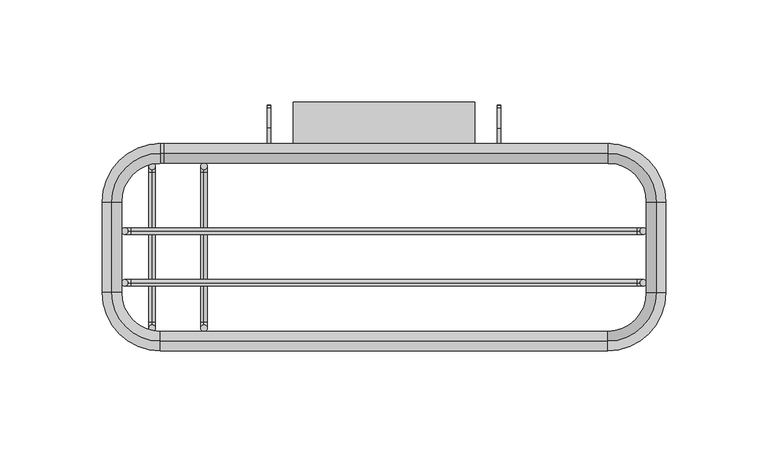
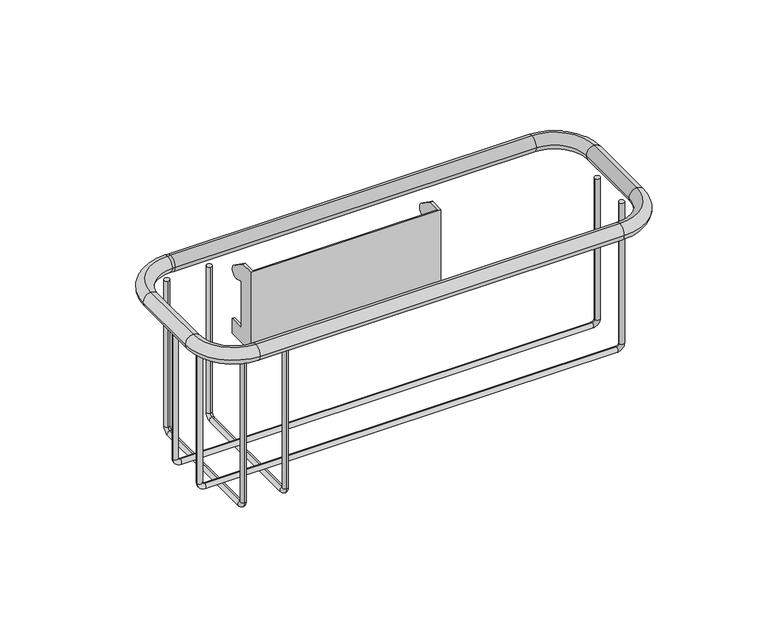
"""IFC4 building model written with IfcOpenShell, lengths in millimetres: furniture geometry."""

from ifc_helpers import new_model, si_unit, point, frame, origin, place, context, project, spatial, circle_curve, ellipse_curve, trimmed, source, transform, mapped, element, save
from ifc_brep_helpers import plane_surface, cylinder_surface, revolved_surface, advanced_brep


def furniture_ef13b4ed(model_context):
    return source(origin(), model_context, "Body", "AdvancedBrep", [
        advanced_brep(
        [(128.5875, -33.2648724, 821.0042), (125.4125, -33.2648724, 821.0042), (-128.5875, -33.2648724, 821.0042), (-125.4125, -33.2648724, 821.0042), (128.5875, -33.2648724, 731.3109034), (125.4125, -33.2648724, 731.3109034), (123.825, -33.2648724, 729.7234034), (123.825, -33.2648724, 726.5484034), (-123.825, -33.2648724, 726.5484034), (-123.825, -33.2648724, 729.7234034), (-125.4125, -33.2648724, 731.3109034), (-128.5875, -33.2648724, 731.3109034)],
        [
            (0, 1, circle_curve(frame((127.0, -33.2648724, 821.0042), z_axis=(0.0, 0.0, 1.0), x_axis=(0.0, 1.0, 0.0)), 1.5875)),
            (1, 0, circle_curve(frame((127.0, -33.2648724, 821.0042), z_axis=(0.0, 0.0, 1.0), x_axis=(0.0, 1.0, 0.0)), 1.5875)),
            (2, 3, circle_curve(frame((-127.0, -33.2648724, 821.0042), z_axis=(0.0, 0.0, 1.0), x_axis=(0.0, 1.0, 0.0)), 1.5875)),
            (3, 2, circle_curve(frame((-127.0, -33.2648724, 821.0042), z_axis=(0.0, 0.0, 1.0), x_axis=(0.0, 1.0, 0.0)), 1.5875)),
            (0, 4),
            (4, 5, circle_curve(frame((127.0, -33.2648724, 731.3109034), z_axis=(0.0, 0.0, 1.0), x_axis=(0.0, 1.0, 0.0)), 1.5875)),
            (5, 1),
            (5, 4, circle_curve(frame((127.0, -33.2648724, 731.3109034), z_axis=(0.0, 0.0, 1.0), x_axis=(0.0, 1.0, 0.0)), 1.5875)),
            (6, 7, circle_curve(frame((123.825, -33.2648724, 728.1359034), z_axis=(-1.0, 0.0, 0.0), x_axis=(0.0, 1.0, 0.0)), 1.5875)),
            (7, 8),
            (8, 9, circle_curve(frame((-123.825, -33.2648724, 728.1359034), z_axis=(1.0, 0.0, 0.0), x_axis=(0.0, 1.0, 0.0)), 1.5875)),
            (9, 6),
            (7, 6, circle_curve(frame((123.825, -33.2648724, 728.1359034), z_axis=(-1.0, 0.0, 0.0), x_axis=(0.0, 1.0, 0.0)), 1.5875)),
            (9, 8, circle_curve(frame((-123.825, -33.2648724, 728.1359034), z_axis=(1.0, 0.0, 0.0), x_axis=(0.0, 1.0, 0.0)), 1.5875)),
            (10, 11, circle_curve(frame((-127.0, -33.2648724, 731.3109034), z_axis=(0.0, 0.0, 1.0), x_axis=(0.0, 1.0, 0.0)), 1.5875)),
            (11, 2),
            (3, 10),
            (11, 10, circle_curve(frame((-127.0, -33.2648724, 731.3109034), z_axis=(0.0, 0.0, 1.0), x_axis=(0.0, 1.0, 0.0)), 1.5875)),
            (6, 5, circle_curve(frame((123.825, -33.2648724, 731.3109034), z_axis=(0.0, -1.0, 0.0), x_axis=(1.0, 0.0, 0.0)), 1.5875)),
            (4, 7, circle_curve(frame((123.825, -33.2648724, 731.3109034), z_axis=(0.0, 1.0, 0.0), x_axis=(1.0, 0.0, 0.0)), 4.7625)),
            (10, 9, circle_curve(frame((-123.825, -33.2648724, 731.3109034), z_axis=(0.0, -1.0, 0.0), x_axis=(0.0, 0.0, -1.0)), 1.5875)),
            (8, 11, circle_curve(frame((-123.825, -33.2648724, 731.3109034), z_axis=(0.0, 1.0, 0.0), x_axis=(0.0, 0.0, -1.0)), 4.7625)),
        ],
        [
            plane_surface(frame((128.5875, -33.2648724, 821.0042), z_axis=(0.0, 0.0, 1.0), x_axis=(0.0, 1.0, 0.0))),
            plane_surface(frame((-128.5875, -33.2648724, 821.0042), z_axis=(0.0, 0.0, 1.0), x_axis=(0.0, 1.0, 0.0))),
            cylinder_surface(frame((127.0, -33.2648724, 821.0042), z_axis=(0.0, 0.0, 1.0), x_axis=(0.0, 1.0, 0.0)), 1.5875),
            cylinder_surface(frame((123.825, -33.2648724, 728.1359034), z_axis=(1.0, 0.0, 0.0), x_axis=(0.0, 1.0, 0.0)), 1.5875),
            cylinder_surface(frame((-127.0, -33.2648724, 731.3109034), z_axis=(0.0, 0.0, -1.0), x_axis=(0.0, 1.0, 0.0)), 1.5875),
            revolved_surface(trimmed(ellipse_curve(frame((127.0, -33.2648724, 731.3109034), z_axis=(0.0, 0.0, 1.0), x_axis=(0.0, 1.0, 0.0)), 1.5875, 1.5875), [point((128.5875, -33.2648724, 731.3109034))], [point((125.4125, -33.2648724, 731.3109034))], True, "CARTESIAN"), (123.825, -33.2648724, 731.3109034), (0.0, 1.0, 0.0)),
            revolved_surface(trimmed(ellipse_curve(frame((127.0, -33.2648724, 731.3109034), z_axis=(0.0, 0.0, 1.0), x_axis=(0.0, 1.0, 0.0)), 1.5875, 1.5875), [point((125.4125, -33.2648724, 731.3109034))], [point((128.5875, -33.2648724, 731.3109034))], True, "CARTESIAN"), (123.825, -33.2648724, 731.3109034), (0.0, 1.0, 0.0)),
            revolved_surface(trimmed(ellipse_curve(frame((-123.825, -33.2648724, 728.1359034), z_axis=(1.0, 0.0, 0.0), x_axis=(0.0, 1.0, 0.0)), 1.5875, 1.5875), [point((-123.825, -33.2648724, 726.5484034))], [point((-123.825, -33.2648724, 729.7234034))], True, "CARTESIAN"), (-123.825, -33.2648724, 731.3109034), (0.0, 1.0, 0.0)),
            revolved_surface(trimmed(ellipse_curve(frame((-123.825, -33.2648724, 728.1359034), z_axis=(1.0, 0.0, 0.0), x_axis=(0.0, 1.0, 0.0)), 1.5875, 1.5875), [point((-123.825, -33.2648724, 729.7234034))], [point((-123.825, -33.2648724, 726.5484034))], True, "CARTESIAN"), (-123.825, -33.2648724, 731.3109034), (0.0, 1.0, 0.0)),
        ],
        [
            (0, [[1, 2]]),
            (1, [[3, 4]]),
            (2, [[-1, 5, 6, 7]]),
            (2, [[-2, -7, 8, -5]]),
            (3, [[9, 10, 11, 12]]),
            (3, [[13, -12, 14, -10]]),
            (4, [[15, 16, -4, 17]]),
            (4, [[18, -17, -3, -16]]),
            (5, [[19, -6, 20, -9]]),
            (6, [[-20, -8, -19, -13]]),
            (7, [[21, -11, 22, -15]]),
            (8, [[-22, -14, -21, -18]]),
        ],
    ),
        advanced_brep(
        [(128.5875, -58.6648724, 821.0042), (125.4125, -58.6648724, 821.0042), (-128.5875, -58.6648724, 821.0042), (-125.4125, -58.6648724, 821.0042), (128.5875, -58.6648724, 731.3109034), (125.4125, -58.6648724, 731.3109034), (123.825, -58.6648724, 729.7234034), (123.825, -58.6648724, 726.5484034), (-123.825, -58.6648724, 726.5484034), (-123.825, -58.6648724, 729.7234034), (-125.4125, -58.6648724, 731.3109034), (-128.5875, -58.6648724, 731.3109034)],
        [
            (0, 1, circle_curve(frame((127.0, -58.6648724, 821.0042), z_axis=(0.0, 0.0, 1.0), x_axis=(0.0, 1.0, 0.0)), 1.5875)),
            (1, 0, circle_curve(frame((127.0, -58.6648724, 821.0042), z_axis=(0.0, 0.0, 1.0), x_axis=(0.0, 1.0, 0.0)), 1.5875)),
            (2, 3, circle_curve(frame((-127.0, -58.6648724, 821.0042), z_axis=(0.0, 0.0, 1.0), x_axis=(0.0, 1.0, 0.0)), 1.5875)),
            (3, 2, circle_curve(frame((-127.0, -58.6648724, 821.0042), z_axis=(0.0, 0.0, 1.0), x_axis=(0.0, 1.0, 0.0)), 1.5875)),
            (0, 4),
            (4, 5, circle_curve(frame((127.0, -58.6648724, 731.3109034), z_axis=(0.0, 0.0, 1.0), x_axis=(0.0, 1.0, 0.0)), 1.5875)),
            (5, 1),
            (5, 4, circle_curve(frame((127.0, -58.6648724, 731.3109034), z_axis=(0.0, 0.0, 1.0), x_axis=(0.0, 1.0, 0.0)), 1.5875)),
            (6, 7, circle_curve(frame((123.825, -58.6648724, 728.1359034), z_axis=(-1.0, 0.0, 0.0), x_axis=(0.0, 1.0, 0.0)), 1.5875)),
            (7, 8),
            (8, 9, circle_curve(frame((-123.825, -58.6648724, 728.1359034), z_axis=(1.0, 0.0, 0.0), x_axis=(0.0, 1.0, 0.0)), 1.5875)),
            (9, 6),
            (7, 6, circle_curve(frame((123.825, -58.6648724, 728.1359034), z_axis=(-1.0, 0.0, 0.0), x_axis=(0.0, 1.0, 0.0)), 1.5875)),
            (9, 8, circle_curve(frame((-123.825, -58.6648724, 728.1359034), z_axis=(1.0, 0.0, 0.0), x_axis=(0.0, 1.0, 0.0)), 1.5875)),
            (10, 11, circle_curve(frame((-127.0, -58.6648724, 731.3109034), z_axis=(0.0, 0.0, 1.0), x_axis=(0.0, 1.0, 0.0)), 1.5875)),
            (11, 2),
            (3, 10),
            (11, 10, circle_curve(frame((-127.0, -58.6648724, 731.3109034), z_axis=(0.0, 0.0, 1.0), x_axis=(0.0, 1.0, 0.0)), 1.5875)),
            (6, 5, circle_curve(frame((123.825, -58.6648724, 731.3109034), z_axis=(0.0, -1.0, 0.0), x_axis=(1.0, 0.0, 0.0)), 1.5875)),
            (4, 7, circle_curve(frame((123.825, -58.6648724, 731.3109034), z_axis=(0.0, 1.0, 0.0), x_axis=(1.0, 0.0, 0.0)), 4.7625)),
            (10, 9, circle_curve(frame((-123.825, -58.6648724, 731.3109034), z_axis=(0.0, -1.0, 0.0), x_axis=(0.0, 0.0, -1.0)), 1.5875)),
            (8, 11, circle_curve(frame((-123.825, -58.6648724, 731.3109034), z_axis=(0.0, 1.0, 0.0), x_axis=(0.0, 0.0, -1.0)), 4.7625)),
        ],
        [
            plane_surface(frame((128.5875, -58.6648724, 821.0042), z_axis=(0.0, 0.0, 1.0), x_axis=(0.0, 1.0, 0.0))),
            plane_surface(frame((-128.5875, -58.6648724, 821.0042), z_axis=(0.0, 0.0, 1.0), x_axis=(0.0, 1.0, 0.0))),
            cylinder_surface(frame((127.0, -58.6648724, 821.0042), z_axis=(0.0, 0.0, 1.0), x_axis=(0.0, 1.0, 0.0)), 1.5875),
            cylinder_surface(frame((123.825, -58.6648724, 728.1359034), z_axis=(1.0, 0.0, 0.0), x_axis=(0.0, 1.0, 0.0)), 1.5875),
            cylinder_surface(frame((-127.0, -58.6648724, 731.3109034), z_axis=(0.0, 0.0, -1.0), x_axis=(0.0, 1.0, 0.0)), 1.5875),
            revolved_surface(trimmed(ellipse_curve(frame((127.0, -58.6648724, 731.3109034), z_axis=(0.0, 0.0, 1.0), x_axis=(0.0, 1.0, 0.0)), 1.5875, 1.5875), [point((128.5875, -58.6648724, 731.3109034))], [point((125.4125, -58.6648724, 731.3109034))], True, "CARTESIAN"), (123.825, -58.6648724, 731.3109034), (0.0, 1.0, 0.0)),
            revolved_surface(trimmed(ellipse_curve(frame((127.0, -58.6648724, 731.3109034), z_axis=(0.0, 0.0, 1.0), x_axis=(0.0, 1.0, 0.0)), 1.5875, 1.5875), [point((125.4125, -58.6648724, 731.3109034))], [point((128.5875, -58.6648724, 731.3109034))], True, "CARTESIAN"), (123.825, -58.6648724, 731.3109034), (0.0, 1.0, 0.0)),
            revolved_surface(trimmed(ellipse_curve(frame((-123.825, -58.6648724, 728.1359034), z_axis=(1.0, 0.0, 0.0), x_axis=(0.0, 1.0, 0.0)), 1.5875, 1.5875), [point((-123.825, -58.6648724, 726.5484034))], [point((-123.825, -58.6648724, 729.7234034))], True, "CARTESIAN"), (-123.825, -58.6648724, 731.3109034), (0.0, 1.0, 0.0)),
            revolved_surface(trimmed(ellipse_curve(frame((-123.825, -58.6648724, 728.1359034), z_axis=(1.0, 0.0, 0.0), x_axis=(0.0, 1.0, 0.0)), 1.5875, 1.5875), [point((-123.825, -58.6648724, 729.7234034))], [point((-123.825, -58.6648724, 726.5484034))], True, "CARTESIAN"), (-123.825, -58.6648724, 731.3109034), (0.0, 1.0, 0.0)),
        ],
        [
            (0, [[1, 2]]),
            (1, [[3, 4]]),
            (2, [[-1, 5, 6, 7]]),
            (2, [[-2, -7, 8, -5]]),
            (3, [[9, 10, 11, 12]]),
            (3, [[13, -12, 14, -10]]),
            (4, [[15, 16, -4, 17]]),
            (4, [[18, -17, -3, -16]]),
            (5, [[19, -6, 20, -9]]),
            (6, [[-20, -8, -19, -13]]),
            (7, [[21, -11, 22, -15]]),
            (8, [[-22, -14, -21, -18]]),
        ],
    ),
        advanced_brep(
        [(-88.19642, -82.4773724, 821.0042), (-88.19642, -79.3023724, 821.0042), (-88.19642, 0.0726276, 821.0042), (-88.19642, -3.1023724, 821.0042), (-88.19642, -82.4773724, 728.1359034), (-88.19642, -79.3023724, 728.1359034), (-88.19642, -77.7148724, 726.5484034), (-88.19642, -77.7148724, 723.3734034), (-88.19642, -4.6898724, 723.3734034), (-88.19642, -4.6898724, 726.5484034), (-88.19642, -3.1023724, 728.1359034), (-88.19642, 0.0726276, 728.1359034)],
        [
            (0, 1, circle_curve(frame((-88.19642, -80.8898724, 821.0042), z_axis=(0.0, 0.0, 1.0), x_axis=(1.0, 0.0, 0.0)), 1.5875)),
            (1, 0, circle_curve(frame((-88.19642, -80.8898724, 821.0042), z_axis=(0.0, 0.0, 1.0), x_axis=(1.0, 0.0, 0.0)), 1.5875)),
            (2, 3, circle_curve(frame((-88.19642, -1.5148724, 821.0042), z_axis=(0.0, 0.0, 1.0), x_axis=(1.0, 0.0, 0.0)), 1.5875)),
            (3, 2, circle_curve(frame((-88.19642, -1.5148724, 821.0042), z_axis=(0.0, 0.0, 1.0), x_axis=(1.0, 0.0, 0.0)), 1.5875)),
            (0, 4),
            (4, 5, circle_curve(frame((-88.19642, -80.8898724, 728.1359034), z_axis=(0.0, 0.0, 1.0), x_axis=(1.0, 0.0, 0.0)), 1.5875)),
            (5, 1),
            (5, 4, circle_curve(frame((-88.19642, -80.8898724, 728.1359034), z_axis=(0.0, 0.0, 1.0), x_axis=(1.0, 0.0, 0.0)), 1.5875)),
            (6, 7, circle_curve(frame((-88.19642, -77.7148724, 724.9609034), z_axis=(0.0, 1.0, 0.0), x_axis=(1.0, 0.0, 0.0)), 1.5875)),
            (7, 8),
            (8, 9, circle_curve(frame((-88.19642, -4.6898724, 724.9609034), z_axis=(0.0, -1.0, 0.0), x_axis=(1.0, 0.0, 0.0)), 1.5875)),
            (9, 6),
            (7, 6, circle_curve(frame((-88.19642, -77.7148724, 724.9609034), z_axis=(0.0, 1.0, 0.0), x_axis=(1.0, 0.0, 0.0)), 1.5875)),
            (9, 8, circle_curve(frame((-88.19642, -4.6898724, 724.9609034), z_axis=(0.0, -1.0, 0.0), x_axis=(1.0, 0.0, 0.0)), 1.5875)),
            (10, 11, circle_curve(frame((-88.19642, -1.5148724, 728.1359034), z_axis=(0.0, 0.0, 1.0), x_axis=(1.0, 0.0, 0.0)), 1.5875)),
            (11, 2),
            (3, 10),
            (11, 10, circle_curve(frame((-88.19642, -1.5148724, 728.1359034), z_axis=(0.0, 0.0, 1.0), x_axis=(1.0, 0.0, 0.0)), 1.5875)),
            (6, 5, circle_curve(frame((-88.19642, -77.7148724, 728.1359034), z_axis=(-1.0, 0.0, 0.0), x_axis=(0.0, -1.0, 0.0)), 1.5875)),
            (4, 7, circle_curve(frame((-88.19642, -77.7148724, 728.1359034), z_axis=(1.0, 0.0, 0.0), x_axis=(0.0, -1.0, 0.0)), 4.7625)),
            (10, 9, circle_curve(frame((-88.19642, -4.6898724, 728.1359034), z_axis=(-1.0, 0.0, 0.0), x_axis=(0.0, 0.0, -1.0)), 1.5875)),
            (8, 11, circle_curve(frame((-88.19642, -4.6898724, 728.1359034), z_axis=(1.0, 0.0, 0.0), x_axis=(0.0, 0.0, -1.0)), 4.7625)),
        ],
        [
            plane_surface(frame((-88.19642, -82.4773724, 821.0042), z_axis=(0.0, 0.0, 1.0), x_axis=(1.0, 0.0, 0.0))),
            plane_surface(frame((-88.19642, 0.0726276, 821.0042), z_axis=(0.0, 0.0, 1.0), x_axis=(1.0, 0.0, 0.0))),
            cylinder_surface(frame((-88.19642, -80.8898724, 821.0042), z_axis=(0.0, 0.0, 1.0), x_axis=(1.0, 0.0, 0.0)), 1.5875),
            cylinder_surface(frame((-88.19642, -77.7148724, 724.9609034), z_axis=(0.0, -1.0, 0.0), x_axis=(1.0, 0.0, 0.0)), 1.5875),
            cylinder_surface(frame((-88.19642, -1.5148724, 728.1359034), z_axis=(0.0, 0.0, -1.0), x_axis=(1.0, 0.0, 0.0)), 1.5875),
            revolved_surface(trimmed(ellipse_curve(frame((-88.19642, -80.8898724, 728.1359034), z_axis=(0.0, 0.0, 1.0), x_axis=(1.0, 0.0, 0.0)), 1.5875, 1.5875), [point((-88.19642, -82.4773724, 728.1359034))], [point((-88.19642, -79.3023724, 728.1359034))], True, "CARTESIAN"), (-88.19642, -77.7148724, 728.1359034), (1.0, 0.0, 0.0)),
            revolved_surface(trimmed(ellipse_curve(frame((-88.19642, -80.8898724, 728.1359034), z_axis=(0.0, 0.0, 1.0), x_axis=(1.0, 0.0, 0.0)), 1.5875, 1.5875), [point((-88.19642, -79.3023724, 728.1359034))], [point((-88.19642, -82.4773724, 728.1359034))], True, "CARTESIAN"), (-88.19642, -77.7148724, 728.1359034), (1.0, 0.0, 0.0)),
            revolved_surface(trimmed(ellipse_curve(frame((-88.19642, -4.6898724, 724.9609034), z_axis=(0.0, -1.0, 0.0), x_axis=(1.0, 0.0, 0.0)), 1.5875, 1.5875), [point((-88.19642, -4.6898724, 723.3734034))], [point((-88.19642, -4.6898724, 726.5484034))], True, "CARTESIAN"), (-88.19642, -4.6898724, 728.1359034), (1.0, 0.0, 0.0)),
            revolved_surface(trimmed(ellipse_curve(frame((-88.19642, -4.6898724, 724.9609034), z_axis=(0.0, -1.0, 0.0), x_axis=(1.0, 0.0, 0.0)), 1.5875, 1.5875), [point((-88.19642, -4.6898724, 726.5484034))], [point((-88.19642, -4.6898724, 723.3734034))], True, "CARTESIAN"), (-88.19642, -4.6898724, 728.1359034), (1.0, 0.0, 0.0)),
        ],
        [
            (0, [[1, 2]]),
            (1, [[3, 4]]),
            (2, [[-1, 5, 6, 7]]),
            (2, [[-2, -7, 8, -5]]),
            (3, [[9, 10, 11, 12]]),
            (3, [[13, -12, 14, -10]]),
            (4, [[15, 16, -4, 17]]),
            (4, [[18, -17, -3, -16]]),
            (5, [[19, -6, 20, -9]]),
            (6, [[-20, -8, -19, -13]]),
            (7, [[21, -11, 22, -15]]),
            (8, [[-22, -14, -21, -18]]),
        ],
    ),
        advanced_brep(
        [(-113.59642, -82.4773724, 821.0042), (-113.59642, -79.3023724, 821.0042), (-113.59642, 0.0726276, 821.0042), (-113.59642, -3.1023724, 821.0042), (-113.59642, -82.4773724, 728.1359034), (-113.59642, -79.3023724, 728.1359034), (-113.59642, -77.7148724, 726.5484034), (-113.59642, -77.7148724, 723.3734034), (-113.59642, -4.6898724, 723.3734034), (-113.59642, -4.6898724, 726.5484034), (-113.59642, -3.1023724, 728.1359034), (-113.59642, 0.0726276, 728.1359034)],
        [
            (0, 1, circle_curve(frame((-113.59642, -80.8898724, 821.0042), z_axis=(0.0, 0.0, 1.0), x_axis=(1.0, 0.0, 0.0)), 1.5875)),
            (1, 0, circle_curve(frame((-113.59642, -80.8898724, 821.0042), z_axis=(0.0, 0.0, 1.0), x_axis=(1.0, 0.0, 0.0)), 1.5875)),
            (2, 3, circle_curve(frame((-113.59642, -1.5148724, 821.0042), z_axis=(0.0, 0.0, 1.0), x_axis=(1.0, 0.0, 0.0)), 1.5875)),
            (3, 2, circle_curve(frame((-113.59642, -1.5148724, 821.0042), z_axis=(0.0, 0.0, 1.0), x_axis=(1.0, 0.0, 0.0)), 1.5875)),
            (0, 4),
            (4, 5, circle_curve(frame((-113.59642, -80.8898724, 728.1359034), z_axis=(0.0, 0.0, 1.0), x_axis=(1.0, 0.0, 0.0)), 1.5875)),
            (5, 1),
            (5, 4, circle_curve(frame((-113.59642, -80.8898724, 728.1359034), z_axis=(0.0, 0.0, 1.0), x_axis=(1.0, 0.0, 0.0)), 1.5875)),
            (6, 7, circle_curve(frame((-113.59642, -77.7148724, 724.9609034), z_axis=(0.0, 1.0, 0.0), x_axis=(1.0, 0.0, 0.0)), 1.5875)),
            (7, 8),
            (8, 9, circle_curve(frame((-113.59642, -4.6898724, 724.9609034), z_axis=(0.0, -1.0, 0.0), x_axis=(1.0, 0.0, 0.0)), 1.5875)),
            (9, 6),
            (7, 6, circle_curve(frame((-113.59642, -77.7148724, 724.9609034), z_axis=(0.0, 1.0, 0.0), x_axis=(1.0, 0.0, 0.0)), 1.5875)),
            (9, 8, circle_curve(frame((-113.59642, -4.6898724, 724.9609034), z_axis=(0.0, -1.0, 0.0), x_axis=(1.0, 0.0, 0.0)), 1.5875)),
            (10, 11, circle_curve(frame((-113.59642, -1.5148724, 728.1359034), z_axis=(0.0, 0.0, 1.0), x_axis=(1.0, 0.0, 0.0)), 1.5875)),
            (11, 2),
            (3, 10),
            (11, 10, circle_curve(frame((-113.59642, -1.5148724, 728.1359034), z_axis=(0.0, 0.0, 1.0), x_axis=(1.0, 0.0, 0.0)), 1.5875)),
            (6, 5, circle_curve(frame((-113.59642, -77.7148724, 728.1359034), z_axis=(-1.0, 0.0, 0.0), x_axis=(0.0, -1.0, 0.0)), 1.5875)),
            (4, 7, circle_curve(frame((-113.59642, -77.7148724, 728.1359034), z_axis=(1.0, 0.0, 0.0), x_axis=(0.0, -1.0, 0.0)), 4.7625)),
            (10, 9, circle_curve(frame((-113.59642, -4.6898724, 728.1359034), z_axis=(-1.0, 0.0, 0.0), x_axis=(0.0, 0.0, -1.0)), 1.5875)),
            (8, 11, circle_curve(frame((-113.59642, -4.6898724, 728.1359034), z_axis=(1.0, 0.0, 0.0), x_axis=(0.0, 0.0, -1.0)), 4.7625)),
        ],
        [
            plane_surface(frame((-113.59642, -82.4773724, 821.0042), z_axis=(0.0, 0.0, 1.0), x_axis=(1.0, 0.0, 0.0))),
            plane_surface(frame((-113.59642, 0.0726276, 821.0042), z_axis=(0.0, 0.0, 1.0), x_axis=(1.0, 0.0, 0.0))),
            cylinder_surface(frame((-113.59642, -80.8898724, 821.0042), z_axis=(0.0, 0.0, 1.0), x_axis=(1.0, 0.0, 0.0)), 1.5875),
            cylinder_surface(frame((-113.59642, -77.7148724, 724.9609034), z_axis=(0.0, -1.0, 0.0), x_axis=(1.0, 0.0, 0.0)), 1.5875),
            cylinder_surface(frame((-113.59642, -1.5148724, 728.1359034), z_axis=(0.0, 0.0, -1.0), x_axis=(1.0, 0.0, 0.0)), 1.5875),
            revolved_surface(trimmed(ellipse_curve(frame((-113.59642, -80.8898724, 728.1359034), z_axis=(0.0, 0.0, 1.0), x_axis=(1.0, 0.0, 0.0)), 1.5875, 1.5875), [point((-113.59642, -82.4773724, 728.1359034))], [point((-113.59642, -79.3023724, 728.1359034))], True, "CARTESIAN"), (-113.59642, -77.7148724, 728.1359034), (1.0, 0.0, 0.0)),
            revolved_surface(trimmed(ellipse_curve(frame((-113.59642, -80.8898724, 728.1359034), z_axis=(0.0, 0.0, 1.0), x_axis=(1.0, 0.0, 0.0)), 1.5875, 1.5875), [point((-113.59642, -79.3023724, 728.1359034))], [point((-113.59642, -82.4773724, 728.1359034))], True, "CARTESIAN"), (-113.59642, -77.7148724, 728.1359034), (1.0, 0.0, 0.0)),
            revolved_surface(trimmed(ellipse_curve(frame((-113.59642, -4.6898724, 724.9609034), z_axis=(0.0, -1.0, 0.0), x_axis=(1.0, 0.0, 0.0)), 1.5875, 1.5875), [point((-113.59642, -4.6898724, 723.3734034))], [point((-113.59642, -4.6898724, 726.5484034))], True, "CARTESIAN"), (-113.59642, -4.6898724, 728.1359034), (1.0, 0.0, 0.0)),
            revolved_surface(trimmed(ellipse_curve(frame((-113.59642, -4.6898724, 724.9609034), z_axis=(0.0, -1.0, 0.0), x_axis=(1.0, 0.0, 0.0)), 1.5875, 1.5875), [point((-113.59642, -4.6898724, 726.5484034))], [point((-113.59642, -4.6898724, 723.3734034))], True, "CARTESIAN"), (-113.59642, -4.6898724, 728.1359034), (1.0, 0.0, 0.0)),
        ],
        [
            (0, [[1, 2]]),
            (1, [[3, 4]]),
            (2, [[-1, 5, 6, 7]]),
            (2, [[-2, -7, 8, -5]]),
            (3, [[9, 10, 11, 12]]),
            (3, [[13, -12, 14, -10]]),
            (4, [[15, 16, -4, 17]]),
            (4, [[18, -17, -3, -16]]),
            (5, [[19, -6, 20, -9]]),
            (6, [[-20, -8, -19, -13]]),
            (7, [[21, -11, 22, -15]]),
            (8, [[-22, -14, -21, -18]]),
        ],
    ),
        advanced_brep(
        [(-109.5375, 4.8351276, 830.5292), (-133.35, -18.9773724, 830.5292), (-128.5875, -18.9773724, 825.7667), (-109.5375, 0.0726276, 825.7667), (-109.5375, 9.5976276, 825.7667), (-138.1125, -18.9773724, 825.7667), (-109.5375, 4.8351276, 821.0042), (-133.35, -18.9773724, 821.0042), (-107.8069343, 0.0726276, 825.7667), (-107.8069343, 4.8351276, 830.5292), (-107.8069343, 9.5976276, 825.7667), (-107.8069343, 4.8351276, 821.0042), (109.5375, 0.0726276, 825.7667), (109.5375, 4.8351276, 830.5292), (109.5375, 9.5976276, 825.7667), (109.5375, 4.8351276, 821.0042), (133.35, -18.9773724, 830.5292), (128.5875, -18.9773724, 825.7667), (138.1125, -18.9773724, 825.7667), (133.35, -18.9773724, 821.0042), (128.5875, -63.4273724, 825.7667), (133.35, -63.4273724, 830.5292), (138.1125, -63.4273724, 825.7667), (133.35, -63.4273724, 821.0042), (109.5375, -87.2398724, 830.5292), (109.5375, -82.4773724, 825.7667), (109.5375, -92.0023724, 825.7667), (109.5375, -87.2398724, 821.0042), (-109.5375, -82.4773724, 825.7667), (-109.5375, -87.2398724, 830.5292), (-109.5375, -92.0023724, 825.7667), (-109.5375, -87.2398724, 821.0042), (-133.35, -63.4273724, 830.5292), (-128.5875, -63.4273724, 825.7667), (-138.1125, -63.4273724, 825.7667), (-133.35, -63.4273724, 821.0042)],
        [
            (0, 1, circle_curve(frame((-109.5375, -18.9773724, 830.5292), z_axis=(0.0, 0.0, 1.0), x_axis=(-1.0, 0.0, 0.0)), 23.8125)),
            (1, 2, circle_curve(frame((-133.35, -18.9773724, 825.7667), z_axis=(0.0, 1.0, 0.0), x_axis=(-1.0, 0.0, 0.0)), 4.7625)),
            (2, 3, circle_curve(frame((-109.5375, -18.9773724, 825.7667), z_axis=(0.0, 0.0, -1.0), x_axis=(-1.0, 0.0, 0.0)), 19.05)),
            (3, 0, circle_curve(frame((-109.5375, 4.8351276, 825.7667), z_axis=(-1.0, 0.0, 0.0), x_axis=(0.0, 1.0, 0.0)), 4.7625)),
            (4, 5, circle_curve(frame((-109.5375, -18.9773724, 825.7667), z_axis=(0.0, 0.0, 1.0), x_axis=(-1.0, 0.0, 0.0)), 28.575)),
            (5, 1, circle_curve(frame((-133.35, -18.9773724, 825.7667), z_axis=(0.0, 1.0, 0.0), x_axis=(-1.0, 0.0, 0.0)), 4.7625)),
            (0, 4, circle_curve(frame((-109.5375, 4.8351276, 825.7667), z_axis=(-1.0, 0.0, 0.0), x_axis=(0.0, 1.0, 0.0)), 4.7625)),
            (6, 7, circle_curve(frame((-109.5375, -18.9773724, 821.0042), z_axis=(0.0, 0.0, 1.0), x_axis=(-1.0, 0.0, 0.0)), 23.8125)),
            (7, 5, circle_curve(frame((-133.35, -18.9773724, 825.7667), z_axis=(0.0, 1.0, 0.0), x_axis=(-1.0, 0.0, 0.0)), 4.7625)),
            (4, 6, circle_curve(frame((-109.5375, 4.8351276, 825.7667), z_axis=(-1.0, 0.0, 0.0), x_axis=(0.0, 1.0, 0.0)), 4.7625)),
            (2, 7, circle_curve(frame((-133.35, -18.9773724, 825.7667), z_axis=(0.0, 1.0, 0.0), x_axis=(-1.0, 0.0, 0.0)), 4.7625)),
            (6, 3, circle_curve(frame((-109.5375, 4.8351276, 825.7667), z_axis=(-1.0, 0.0, 0.0), x_axis=(0.0, 1.0, 0.0)), 4.7625)),
            (3, 8),
            (8, 9, circle_curve(frame((-107.8069343, 4.8351276, 825.7667), z_axis=(-1.0, 0.0, 0.0), x_axis=(0.0, 1.0, 0.0)), 4.7625)),
            (9, 0),
            (9, 10, circle_curve(frame((-107.8069343, 4.8351276, 825.7667), z_axis=(-1.0, 0.0, 0.0), x_axis=(0.0, 1.0, 0.0)), 4.7625)),
            (10, 4),
            (10, 11, circle_curve(frame((-107.8069343, 4.8351276, 825.7667), z_axis=(-1.0, 0.0, 0.0), x_axis=(0.0, 1.0, 0.0)), 4.7625)),
            (11, 6),
            (11, 8, circle_curve(frame((-107.8069343, 4.8351276, 825.7667), z_axis=(-1.0, 0.0, 0.0), x_axis=(0.0, 1.0, 0.0)), 4.7625)),
            (8, 12),
            (12, 13, circle_curve(frame((109.5375, 4.8351276, 825.7667), z_axis=(-1.0, 0.0, 0.0), x_axis=(0.0, 1.0, 0.0)), 4.7625)),
            (13, 9),
            (13, 14, circle_curve(frame((109.5375, 4.8351276, 825.7667), z_axis=(-1.0, 0.0, 0.0), x_axis=(0.0, 1.0, 0.0)), 4.7625)),
            (14, 10),
            (14, 15, circle_curve(frame((109.5375, 4.8351276, 825.7667), z_axis=(-1.0, 0.0, 0.0), x_axis=(0.0, 1.0, 0.0)), 4.7625)),
            (15, 11),
            (15, 12, circle_curve(frame((109.5375, 4.8351276, 825.7667), z_axis=(-1.0, 0.0, 0.0), x_axis=(0.0, 1.0, 0.0)), 4.7625)),
            (16, 13, circle_curve(frame((109.5375, -18.9773724, 830.5292), z_axis=(0.0, 0.0, 1.0), x_axis=(0.0, 1.0, 0.0)), 23.8125)),
            (12, 17, circle_curve(frame((109.5375, -18.9773724, 825.7667), z_axis=(0.0, 0.0, -1.0), x_axis=(0.0, 1.0, 0.0)), 19.05)),
            (17, 16, circle_curve(frame((133.35, -18.9773724, 825.7667), z_axis=(0.0, 1.0, 0.0), x_axis=(1.0, 0.0, 0.0)), 4.7625)),
            (18, 14, circle_curve(frame((109.5375, -18.9773724, 825.7667), z_axis=(0.0, 0.0, 1.0), x_axis=(0.0, 1.0, 0.0)), 28.575)),
            (16, 18, circle_curve(frame((133.35, -18.9773724, 825.7667), z_axis=(0.0, 1.0, 0.0), x_axis=(1.0, 0.0, 0.0)), 4.7625)),
            (19, 15, circle_curve(frame((109.5375, -18.9773724, 821.0042), z_axis=(0.0, 0.0, 1.0), x_axis=(0.0, 1.0, 0.0)), 23.8125)),
            (18, 19, circle_curve(frame((133.35, -18.9773724, 825.7667), z_axis=(0.0, 1.0, 0.0), x_axis=(1.0, 0.0, 0.0)), 4.7625)),
            (19, 17, circle_curve(frame((133.35, -18.9773724, 825.7667), z_axis=(0.0, 1.0, 0.0), x_axis=(1.0, 0.0, 0.0)), 4.7625)),
            (17, 20),
            (20, 21, circle_curve(frame((133.35, -63.4273724, 825.7667), z_axis=(0.0, 1.0, 0.0), x_axis=(1.0, 0.0, 0.0)), 4.7625)),
            (21, 16),
            (21, 22, circle_curve(frame((133.35, -63.4273724, 825.7667), z_axis=(0.0, 1.0, 0.0), x_axis=(1.0, 0.0, 0.0)), 4.7625)),
            (22, 18),
            (22, 23, circle_curve(frame((133.35, -63.4273724, 825.7667), z_axis=(0.0, 1.0, 0.0), x_axis=(1.0, 0.0, 0.0)), 4.7625)),
            (23, 19),
            (23, 20, circle_curve(frame((133.35, -63.4273724, 825.7667), z_axis=(0.0, 1.0, 0.0), x_axis=(1.0, 0.0, 0.0)), 4.7625)),
            (24, 21, circle_curve(frame((109.5375, -63.4273724, 830.5292), z_axis=(0.0, 0.0, 1.0), x_axis=(1.0, 0.0, 0.0)), 23.8125)),
            (20, 25, circle_curve(frame((109.5375, -63.4273724, 825.7667), z_axis=(0.0, 0.0, -1.0), x_axis=(1.0, 0.0, 0.0)), 19.05)),
            (25, 24, circle_curve(frame((109.5375, -87.2398724, 825.7667), z_axis=(1.0, 0.0, 0.0), x_axis=(0.0, -1.0, 0.0)), 4.7625)),
            (26, 22, circle_curve(frame((109.5375, -63.4273724, 825.7667), z_axis=(0.0, 0.0, 1.0), x_axis=(1.0, 0.0, 0.0)), 28.575)),
            (24, 26, circle_curve(frame((109.5375, -87.2398724, 825.7667), z_axis=(1.0, 0.0, 0.0), x_axis=(0.0, -1.0, 0.0)), 4.7625)),
            (27, 23, circle_curve(frame((109.5375, -63.4273724, 821.0042), z_axis=(0.0, 0.0, 1.0), x_axis=(1.0, 0.0, 0.0)), 23.8125)),
            (26, 27, circle_curve(frame((109.5375, -87.2398724, 825.7667), z_axis=(1.0, 0.0, 0.0), x_axis=(0.0, -1.0, 0.0)), 4.7625)),
            (27, 25, circle_curve(frame((109.5375, -87.2398724, 825.7667), z_axis=(1.0, 0.0, 0.0), x_axis=(0.0, -1.0, 0.0)), 4.7625)),
            (25, 28),
            (28, 29, circle_curve(frame((-109.5375, -87.2398724, 825.7667), z_axis=(1.0, 0.0, 0.0), x_axis=(0.0, -1.0, 0.0)), 4.7625)),
            (29, 24),
            (29, 30, circle_curve(frame((-109.5375, -87.2398724, 825.7667), z_axis=(1.0, 0.0, 0.0), x_axis=(0.0, -1.0, 0.0)), 4.7625)),
            (30, 26),
            (30, 31, circle_curve(frame((-109.5375, -87.2398724, 825.7667), z_axis=(1.0, 0.0, 0.0), x_axis=(0.0, -1.0, 0.0)), 4.7625)),
            (31, 27),
            (31, 28, circle_curve(frame((-109.5375, -87.2398724, 825.7667), z_axis=(1.0, 0.0, 0.0), x_axis=(0.0, -1.0, 0.0)), 4.7625)),
            (32, 29, circle_curve(frame((-109.5375, -63.4273724, 830.5292), z_axis=(0.0, 0.0, 1.0), x_axis=(0.0, -1.0, 0.0)), 23.8125)),
            (28, 33, circle_curve(frame((-109.5375, -63.4273724, 825.7667), z_axis=(0.0, 0.0, -1.0), x_axis=(0.0, -1.0, 0.0)), 19.05)),
            (33, 32, circle_curve(frame((-133.35, -63.4273724, 825.7667), z_axis=(0.0, -1.0, 0.0), x_axis=(-1.0, 0.0, 0.0)), 4.7625)),
            (34, 30, circle_curve(frame((-109.5375, -63.4273724, 825.7667), z_axis=(0.0, 0.0, 1.0), x_axis=(0.0, -1.0, 0.0)), 28.575)),
            (32, 34, circle_curve(frame((-133.35, -63.4273724, 825.7667), z_axis=(0.0, -1.0, 0.0), x_axis=(-1.0, 0.0, 0.0)), 4.7625)),
            (35, 31, circle_curve(frame((-109.5375, -63.4273724, 821.0042), z_axis=(0.0, 0.0, 1.0), x_axis=(0.0, -1.0, 0.0)), 23.8125)),
            (34, 35, circle_curve(frame((-133.35, -63.4273724, 825.7667), z_axis=(0.0, -1.0, 0.0), x_axis=(-1.0, 0.0, 0.0)), 4.7625)),
            (35, 33, circle_curve(frame((-133.35, -63.4273724, 825.7667), z_axis=(0.0, -1.0, 0.0), x_axis=(-1.0, 0.0, 0.0)), 4.7625)),
            (33, 2),
            (1, 32),
            (5, 34),
            (7, 35),
        ],
        [
            revolved_surface(trimmed(ellipse_curve(frame((-133.35, -18.9773724, 825.7667), z_axis=(0.0, -1.0, 0.0), x_axis=(-1.0, 0.0, 0.0)), 4.7625, 4.7625), [point((-128.5875, -18.9773724, 825.7667))], [point((-133.35, -18.9773724, 830.5292))], True, "CARTESIAN"), (-109.5375, -18.9773724, 0.0), (0.0, 0.0, -1.0)),
            revolved_surface(trimmed(ellipse_curve(frame((-133.35, -18.9773724, 825.7667), z_axis=(0.0, -1.0, 0.0), x_axis=(-1.0, 0.0, 0.0)), 4.7625, 4.7625), [point((-133.35, -18.9773724, 830.5292))], [point((-138.1125, -18.9773724, 825.7667))], True, "CARTESIAN"), (-109.5375, -18.9773724, 0.0), (0.0, 0.0, -1.0)),
            revolved_surface(trimmed(ellipse_curve(frame((-133.35, -18.9773724, 825.7667), z_axis=(0.0, -1.0, 0.0), x_axis=(-1.0, 0.0, 0.0)), 4.7625, 4.7625), [point((-138.1125, -18.9773724, 825.7667))], [point((-133.35, -18.9773724, 821.0042))], True, "CARTESIAN"), (-109.5375, -18.9773724, 0.0), (0.0, 0.0, -1.0)),
            revolved_surface(trimmed(ellipse_curve(frame((-133.35, -18.9773724, 825.7667), z_axis=(0.0, -1.0, 0.0), x_axis=(-1.0, 0.0, 0.0)), 4.7625, 4.7625), [point((-133.35, -18.9773724, 821.0042))], [point((-128.5875, -18.9773724, 825.7667))], True, "CARTESIAN"), (-109.5375, -18.9773724, 0.0), (0.0, 0.0, -1.0)),
            cylinder_surface(frame((-109.5375, 4.8351276, 825.7667), z_axis=(-1.0, 0.0, 0.0), x_axis=(0.0, 1.0, 0.0)), 4.7625),
            cylinder_surface(frame((-107.8069343, 4.8351276, 825.7667), z_axis=(-1.0, 0.0, 0.0), x_axis=(0.0, 1.0, 0.0)), 4.7625),
            revolved_surface(trimmed(ellipse_curve(frame((109.5375, 4.8351276, 825.7667), z_axis=(-1.0, 0.0, 0.0), x_axis=(0.0, 1.0, 0.0)), 4.7625, 4.7625), [point((109.5375, 0.0726276, 825.7667))], [point((109.5375, 4.8351276, 830.5292))], True, "CARTESIAN"), (109.5375, -18.9773724, 0.0), (0.0, 0.0, -1.0)),
            revolved_surface(trimmed(ellipse_curve(frame((109.5375, 4.8351276, 825.7667), z_axis=(-1.0, 0.0, 0.0), x_axis=(0.0, 1.0, 0.0)), 4.7625, 4.7625), [point((109.5375, 4.8351276, 830.5292))], [point((109.5375, 9.5976276, 825.7667))], True, "CARTESIAN"), (109.5375, -18.9773724, 0.0), (0.0, 0.0, -1.0)),
            revolved_surface(trimmed(ellipse_curve(frame((109.5375, 4.8351276, 825.7667), z_axis=(-1.0, 0.0, 0.0), x_axis=(0.0, 1.0, 0.0)), 4.7625, 4.7625), [point((109.5375, 9.5976276, 825.7667))], [point((109.5375, 4.8351276, 821.0042))], True, "CARTESIAN"), (109.5375, -18.9773724, 0.0), (0.0, 0.0, -1.0)),
            revolved_surface(trimmed(ellipse_curve(frame((109.5375, 4.8351276, 825.7667), z_axis=(-1.0, 0.0, 0.0), x_axis=(0.0, 1.0, 0.0)), 4.7625, 4.7625), [point((109.5375, 4.8351276, 821.0042))], [point((109.5375, 0.0726276, 825.7667))], True, "CARTESIAN"), (109.5375, -18.9773724, 0.0), (0.0, 0.0, -1.0)),
            cylinder_surface(frame((133.35, -18.9773724, 825.7667), z_axis=(0.0, 1.0, 0.0), x_axis=(1.0, 0.0, 0.0)), 4.7625),
            revolved_surface(trimmed(ellipse_curve(frame((133.35, -63.4273724, 825.7667), z_axis=(0.0, 1.0, 0.0), x_axis=(1.0, 0.0, 0.0)), 4.7625, 4.7625), [point((128.5875, -63.4273724, 825.7667))], [point((133.35, -63.4273724, 830.5292))], True, "CARTESIAN"), (109.5375, -63.4273724, 0.0), (0.0, 0.0, -1.0)),
            revolved_surface(trimmed(ellipse_curve(frame((133.35, -63.4273724, 825.7667), z_axis=(0.0, 1.0, 0.0), x_axis=(1.0, 0.0, 0.0)), 4.7625, 4.7625), [point((133.35, -63.4273724, 830.5292))], [point((138.1125, -63.4273724, 825.7667))], True, "CARTESIAN"), (109.5375, -63.4273724, 0.0), (0.0, 0.0, -1.0)),
            revolved_surface(trimmed(ellipse_curve(frame((133.35, -63.4273724, 825.7667), z_axis=(0.0, 1.0, 0.0), x_axis=(1.0, 0.0, 0.0)), 4.7625, 4.7625), [point((138.1125, -63.4273724, 825.7667))], [point((133.35, -63.4273724, 821.0042))], True, "CARTESIAN"), (109.5375, -63.4273724, 0.0), (0.0, 0.0, -1.0)),
            revolved_surface(trimmed(ellipse_curve(frame((133.35, -63.4273724, 825.7667), z_axis=(0.0, 1.0, 0.0), x_axis=(1.0, 0.0, 0.0)), 4.7625, 4.7625), [point((133.35, -63.4273724, 821.0042))], [point((128.5875, -63.4273724, 825.7667))], True, "CARTESIAN"), (109.5375, -63.4273724, 0.0), (0.0, 0.0, -1.0)),
            cylinder_surface(frame((109.5375, -87.2398724, 825.7667), z_axis=(1.0, 0.0, 0.0), x_axis=(0.0, -1.0, 0.0)), 4.7625),
            revolved_surface(trimmed(ellipse_curve(frame((-109.5375, -87.2398724, 825.7667), z_axis=(1.0, 0.0, 0.0), x_axis=(0.0, -1.0, 0.0)), 4.7625, 4.7625), [point((-109.5375, -82.4773724, 825.7667))], [point((-109.5375, -87.2398724, 830.5292))], True, "CARTESIAN"), (-109.5375, -63.4273724, 0.0), (0.0, 0.0, -1.0)),
            revolved_surface(trimmed(ellipse_curve(frame((-109.5375, -87.2398724, 825.7667), z_axis=(1.0, 0.0, 0.0), x_axis=(0.0, -1.0, 0.0)), 4.7625, 4.7625), [point((-109.5375, -87.2398724, 830.5292))], [point((-109.5375, -92.0023724, 825.7667))], True, "CARTESIAN"), (-109.5375, -63.4273724, 0.0), (0.0, 0.0, -1.0)),
            revolved_surface(trimmed(ellipse_curve(frame((-109.5375, -87.2398724, 825.7667), z_axis=(1.0, 0.0, 0.0), x_axis=(0.0, -1.0, 0.0)), 4.7625, 4.7625), [point((-109.5375, -92.0023724, 825.7667))], [point((-109.5375, -87.2398724, 821.0042))], True, "CARTESIAN"), (-109.5375, -63.4273724, 0.0), (0.0, 0.0, -1.0)),
            revolved_surface(trimmed(ellipse_curve(frame((-109.5375, -87.2398724, 825.7667), z_axis=(1.0, 0.0, 0.0), x_axis=(0.0, -1.0, 0.0)), 4.7625, 4.7625), [point((-109.5375, -87.2398724, 821.0042))], [point((-109.5375, -82.4773724, 825.7667))], True, "CARTESIAN"), (-109.5375, -63.4273724, 0.0), (0.0, 0.0, -1.0)),
            cylinder_surface(frame((-133.35, -63.4273724, 825.7667), z_axis=(0.0, -1.0, 0.0), x_axis=(-1.0, 0.0, 0.0)), 4.7625),
        ],
        [
            (0, [[1, 2, 3, 4]]),
            (1, [[5, 6, -1, 7]]),
            (2, [[8, 9, -5, 10]]),
            (3, [[-3, 11, -8, 12]]),
            (4, [[-4, 13, 14, 15]]),
            (4, [[-7, -15, 16, 17]]),
            (4, [[-10, -17, 18, 19]]),
            (4, [[-12, -19, 20, -13]]),
            (5, [[-14, 21, 22, 23]]),
            (5, [[-16, -23, 24, 25]]),
            (5, [[-18, -25, 26, 27]]),
            (5, [[-20, -27, 28, -21]]),
            (6, [[29, -22, 30, 31]]),
            (7, [[32, -24, -29, 33]]),
            (8, [[34, -26, -32, 35]]),
            (9, [[-30, -28, -34, 36]]),
            (10, [[-31, 37, 38, 39]]),
            (10, [[-33, -39, 40, 41]]),
            (10, [[-35, -41, 42, 43]]),
            (10, [[-36, -43, 44, -37]]),
            (11, [[45, -38, 46, 47]]),
            (12, [[48, -40, -45, 49]]),
            (13, [[50, -42, -48, 51]]),
            (14, [[-46, -44, -50, 52]]),
            (15, [[-47, 53, 54, 55]]),
            (15, [[-49, -55, 56, 57]]),
            (15, [[-51, -57, 58, 59]]),
            (15, [[-52, -59, 60, -53]]),
            (16, [[61, -54, 62, 63]]),
            (17, [[64, -56, -61, 65]]),
            (18, [[66, -58, -64, 67]]),
            (19, [[-62, -60, -66, 68]]),
            (20, [[-63, 69, -2, 70]]),
            (20, [[-65, -70, -6, 71]]),
            (20, [[-67, -71, -9, 72]]),
            (20, [[-68, -72, -11, -69]]),
        ],
    ),
        advanced_brep(
        [(55.5625, 17.3333453, 799.57168), (55.5625, 26.9218787, 792.96886), (55.5625, 23.212402, 786.4527062), (55.5625, 18.9208455, 787.6654296), (55.5625, 18.9208455, 758.2966815), (55.5625, 28.4458455, 758.2966815), (55.5625, 28.4458455, 748.7716815), (55.5625, 9.5976276, 748.7716815), (55.5625, 9.5976276, 799.57168), (57.15, 17.3333453, 799.57168), (57.15, 8.6020954, 799.57168), (57.15, 8.6020954, 748.7716815), (57.15, 28.4458455, 748.7716815), (57.15, 28.4458455, 758.2966815), (57.15, 18.9208455, 758.2966815), (57.15, 18.9208455, 787.6654296), (57.15, 23.212402, 786.4527062), (57.15, 26.9218787, 792.96886), (-57.15, 8.6020954, 748.7716815), (-57.15, 28.4458455, 748.7716815), (-55.5625, 28.4458455, 748.7716815), (-55.5625, 9.5976276, 748.7716815), (-57.15, 8.6020954, 799.57168), (-55.5625, 9.5976276, 799.57168), (-55.5625, 17.3333453, 799.57168), (-57.15, 17.3333453, 799.57168), (-44.45, 9.5976276, 752.7417015), (-44.45, 9.5976276, 751.1542015), (44.45, 9.5976276, 751.1542015), (44.45, 9.5976276, 752.7417015), (-44.45, 30.0333455, 752.7417015), (-44.45, 30.0333455, 751.1542015), (44.45, 30.0333455, 752.7417015), (44.45, 30.0333455, 751.1542015), (-57.15, 26.9218787, 792.96886), (-57.15, 23.212402, 786.4527062), (-57.15, 18.9208455, 787.6654296), (-57.15, 18.9208455, 758.2966815), (-57.15, 28.4458455, 758.2966815), (-55.5625, 28.4458455, 758.2966815), (-55.5625, 18.9208455, 758.2966815), (-55.5625, 18.9208455, 787.6654296), (-55.5625, 23.212402, 786.4527062), (-55.5625, 26.9218787, 792.96886)],
        [
            (0, 1),
            (1, 2, circle_curve(frame((55.5625, 24.2625186, 790.1688333), z_axis=(-1.0, 0.0, 0.0), x_axis=(0.0, 1.0, 0.0)), 3.8616507)),
            (2, 3),
            (3, 4),
            (4, 5),
            (5, 6),
            (6, 7),
            (7, 8),
            (8, 0),
            (9, 10),
            (10, 11),
            (11, 12),
            (12, 13),
            (13, 14),
            (14, 15),
            (15, 16),
            (16, 17, circle_curve(frame((57.15, 24.2625186, 790.1688333), z_axis=(1.0, 0.0, 0.0), x_axis=(0.0, 1.0, 0.0)), 3.8616507)),
            (17, 9),
            (0, 9),
            (17, 1),
            (16, 2),
            (15, 3),
            (14, 4),
            (13, 5),
            (12, 6),
            (11, 18),
            (18, 19),
            (19, 20),
            (20, 21),
            (21, 7),
            (10, 22),
            (22, 18),
            (8, 23),
            (23, 24),
            (24, 25),
            (25, 22),
            (21, 23),
            (26, 27),
            (27, 28),
            (28, 29),
            (29, 26),
            (30, 31),
            (31, 27),
            (26, 30),
            (32, 29),
            (28, 33),
            (33, 32),
            (30, 32),
            (33, 31),
            (25, 34),
            (34, 35, circle_curve(frame((-57.15, 24.2625186, 790.1688333), z_axis=(-1.0, 0.0, 0.0), x_axis=(0.0, 1.0, 0.0)), 3.8616507)),
            (35, 36),
            (36, 37),
            (37, 38),
            (38, 19),
            (20, 39),
            (39, 40),
            (40, 41),
            (41, 42),
            (42, 43, circle_curve(frame((-55.5625, 24.2625186, 790.1688333), z_axis=(1.0, 0.0, 0.0), x_axis=(0.0, 1.0, 0.0)), 3.8616507)),
            (43, 24),
            (43, 34),
            (42, 35),
            (41, 36),
            (40, 37),
            (39, 38),
        ],
        [
            plane_surface(frame((55.5625, 8.6020954, 0.0), z_axis=(-1.0, 0.0, 0.0), x_axis=(0.0, 0.0, 1.0))),
            plane_surface(frame((57.15, 8.6020954, 0.0), z_axis=(1.0, 0.0, 0.0), x_axis=(0.0, 0.0, 1.0))),
            plane_surface(frame((55.5625, 17.3333453, 799.57168), z_axis=(0.0, 0.5671529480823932, 0.8236124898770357), x_axis=(1.0, 0.0, 0.0))),
            cylinder_surface(frame((55.5625, 24.2625186, 790.1688333), z_axis=(-1.0, 0.0, 0.0), x_axis=(0.0, 1.0, 0.0)), 3.8616507),
            plane_surface(frame((55.5625, 23.212402, 786.4527062), z_axis=(0.0, -0.27193464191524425, -0.9623157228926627), x_axis=(1.0, 0.0, 0.0))),
            plane_surface(frame((55.5625, 18.9208455, 787.6654296), z_axis=(0.0, 1.0, 0.0), x_axis=(1.0, 0.0, 0.0))),
            plane_surface(frame((55.5625, 18.9208455, 758.2966815), z_axis=(0.0, 0.0, 1.0), x_axis=(1.0, 0.0, 0.0))),
            plane_surface(frame((55.5625, 28.4458455, 758.2966815), z_axis=(0.0, 1.0, 0.0), x_axis=(1.0, 0.0, 0.0))),
            plane_surface(frame((55.5625, 28.4458455, 748.7716815), z_axis=(0.0, 0.0, -1.0), x_axis=(1.0, 0.0, 0.0))),
            plane_surface(frame((55.5625, 8.6020954, 748.7716815), z_axis=(0.0, -1.0, 0.0), x_axis=(1.0, 0.0, 0.0))),
            plane_surface(frame((55.5625, 8.6020954, 799.57168), z_axis=(0.0, 0.0, 1.0), x_axis=(1.0, 0.0, 0.0))),
            plane_surface(frame((-55.5625, 9.5976276, 799.57168), z_axis=(0.0, 1.0, 0.0), x_axis=(1.0, 0.0, 0.0))),
            plane_surface(frame((-44.45, 9.5976276, 0.0), z_axis=(-1.0, 0.0, 0.0), x_axis=(0.0, 0.0, 1.0))),
            plane_surface(frame((44.45, 9.5976276, 0.0), z_axis=(1.0, 0.0, 0.0), x_axis=(0.0, 0.0, 1.0))),
            plane_surface(frame((-44.45, 30.0333455, 752.7417015), z_axis=(0.0, 1.0, 0.0), x_axis=(1.0, 0.0, 0.0))),
            plane_surface(frame((-44.45, 30.0333455, 751.1542015), z_axis=(0.0, 0.0, -1.0), x_axis=(1.0, 0.0, 0.0))),
            plane_surface(frame((-44.45, 9.5976276, 752.7417015), z_axis=(0.0, 0.0, 1.0), x_axis=(1.0, 0.0, 0.0))),
            plane_surface(frame((-57.15, 8.6020954, 0.0), z_axis=(-1.0, 0.0, 0.0), x_axis=(0.0, 0.0, 1.0))),
            plane_surface(frame((-55.5625, 8.6020954, 0.0), z_axis=(1.0, 0.0, 0.0), x_axis=(0.0, 0.0, 1.0))),
            plane_surface(frame((-57.15, 17.3333453, 799.57168), z_axis=(0.0, 0.5671529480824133, 0.8236124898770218), x_axis=(1.0, 0.0, 0.0))),
            cylinder_surface(frame((-57.15, 24.2625186, 790.1688333), z_axis=(-1.0, 0.0, 0.0), x_axis=(0.0, 1.0, 0.0)), 3.8616507),
            plane_surface(frame((-57.15, 23.212402, 786.4527062), z_axis=(0.0, -0.2719346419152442, -0.9623157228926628), x_axis=(1.0, 0.0, 0.0))),
            plane_surface(frame((-57.15, 18.9208455, 787.6654296), z_axis=(0.0, 1.0, 0.0), x_axis=(1.0, 0.0, 0.0))),
            plane_surface(frame((-57.15, 18.9208455, 758.2966815), z_axis=(0.0, 0.0, 1.0), x_axis=(1.0, 0.0, 0.0))),
            plane_surface(frame((-57.15, 28.4458455, 758.2966815), z_axis=(0.0, 1.0, 0.0), x_axis=(1.0, 0.0, 0.0))),
        ],
        [
            (0, [[1, 2, 3, 4, 5, 6, 7, 8, 9]]),
            (1, [[10, 11, 12, 13, 14, 15, 16, 17, 18]]),
            (2, [[-1, 19, -18, 20]]),
            (3, [[-2, -20, -17, 21]]),
            (4, [[-3, -21, -16, 22]]),
            (5, [[-4, -22, -15, 23]]),
            (6, [[-5, -23, -14, 24]]),
            (7, [[-6, -24, -13, 25]]),
            (8, [[-12, 26, 27, 28, 29, 30, -7, -25]]),
            (9, [[-26, -11, 31, 32]]),
            (10, [[-31, -10, -19, -9, 33, 34, 35, 36]]),
            (11, [[-33, -8, -30, 37], [38, 39, 40, 41]]),
            (12, [[42, 43, -38, 44]]),
            (13, [[45, -40, 46, 47]]),
            (14, [[-42, 48, -47, 49]]),
            (15, [[-43, -49, -46, -39]]),
            (16, [[-44, -41, -45, -48]]),
            (17, [[50, 51, 52, 53, 54, 55, -27, -32, -36]]),
            (18, [[56, 57, 58, 59, 60, 61, -34, -37, -29]]),
            (19, [[-50, -35, -61, 62]]),
            (20, [[-51, -62, -60, 63]]),
            (21, [[-52, -63, -59, 64]]),
            (22, [[-53, -64, -58, 65]]),
            (23, [[-54, -65, -57, 66]]),
            (24, [[-55, -66, -56, -28]]),
        ],
    ),
    ])


if __name__ == "__main__":
    model = new_model("IFC4")
    model_context = context("Model", 3, world=origin())
    ifc_project = project(units=[si_unit("LENGTHUNIT", "METRE", prefix="MILLI")], contexts=[model_context])
    site = spatial("IfcSite", under=ifc_project)
    building = spatial("IfcBuilding", under=site)
    placement = place(None, origin())
    furniture_shape = furniture_ef13b4ed(model_context)
    element("IfcFurniture", 1, ObjectType="HermanMiller_Carts_CT720_SupplyBasket : 5\"H x 5\"D x 12\"W Supply Basket", at=placement, inside=building, context=model_context, shape_type="MappedRepresentation", body=[
        mapped(furniture_shape, transform((0.0, 0.0, 0.0), x_axis=(1.0, 0.0, 0.0), y_axis=(0.0, 1.0, 0.0), z_axis=(0.0, 0.0, 1.0))),
    ])
    save(model, "model.ifc")
